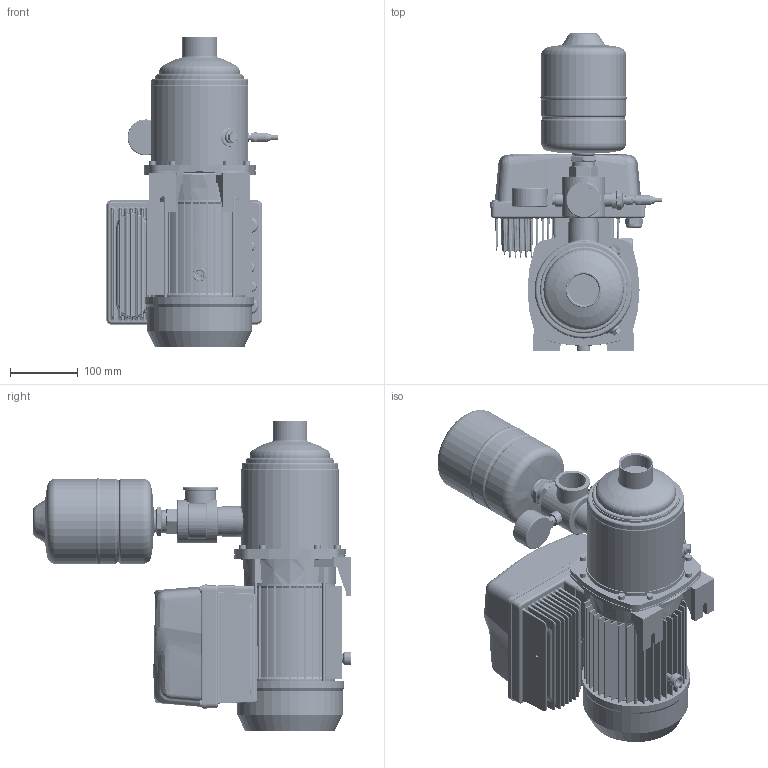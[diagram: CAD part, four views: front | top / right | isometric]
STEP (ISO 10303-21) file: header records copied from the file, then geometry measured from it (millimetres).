
FILE_DESCRIPTION((''),'2;1');
FILE_NAME('1GPE_MATRIX_10-4T_1-5_ESPM_ASM','2024-12-02T15:05:33',('Utente'),('"Ebara Pumps Europe S.p.A"'),'CREO PARAMETRIC BY PTC INC, 2022124','CREO PARAMETRIC BY PTC INC, 2022124','');
FILE_SCHEMA(('AUTOMOTIVE_DESIGN { 1 0 10303 214 1 1 1 1 }'));
Length unit declared in the file: millimetre
Products named in the file (14): EP_MATRIX10-4T_1-5_IE3; EP_MATRIX_10-4T_1-5_ASM; ADATTATORE_E-SPD_MEC80-90-100; E-SPD_ADATTATORE_MEC80-90-100_ASM; BACK_E-SPD_PLUS_2200-4000; COVER_E-SPD_PLUS_2200-4000; COM_E-SPDM_MEC80-90-100_ORIZ_ASM; RACC_5_VIE_NR_1_1-4_A304; TRASD_ASHCROFT_M12_GEN; CABLE_M12_FEMALE; TRASD_ASHCROFT_10B_MP_362331051_ASM; MAN_RAD_D50_10BAR_361600160; VASO_ESPANSIONE_2L_GWS; 1GPE_MATRIX_10-4T_1-5_ESPM_ASM
Assembly tree (13 placements, depth 3):
  1GPE_MATRIX_10-4T_1-5_ESPM_ASM
    EP_MATRIX_10-4T_1-5_ASM
      EP_MATRIX10-4T_1-5_IE3
    E-SPD_ADATTATORE_MEC80-90-100_ASM
      ADATTATORE_E-SPD_MEC80-90-100
    COM_E-SPDM_MEC80-90-100_ORIZ_ASM
      BACK_E-SPD_PLUS_2200-4000
      COVER_E-SPD_PLUS_2200-4000
    RACC_5_VIE_NR_1_1-4_A304
    TRASD_ASHCROFT_10B_MP_362331051_ASM
      TRASD_ASHCROFT_M12_GEN
      CABLE_M12_FEMALE
    MAN_RAD_D50_10BAR_361600160
    VASO_ESPANSIONE_2L_GWS
Bounding box: 252.74 x 468.31 x 456.8 mm (x, y, z)
Volume: 5431064 mm3; surface area: 1350289.7 mm2
Topology: 91 solids, 512 shells, 12013 faces, 30521 edges, 18116 vertices
Faces by surface type: plane 6002, cylinder 2631, sphere 1047, bspline 950, cone 482, torus 466, extrusion 435
Entity records: 488832 total; most frequent: CARTESIAN_POINT 173638, ORIENTED_EDGE 56207, DIRECTION 53521, EDGE_CURVE 29044, VERTEX_POINT 17996, VECTOR 17857, AXIS2_PLACEMENT_3D 17813, LINE 17422
